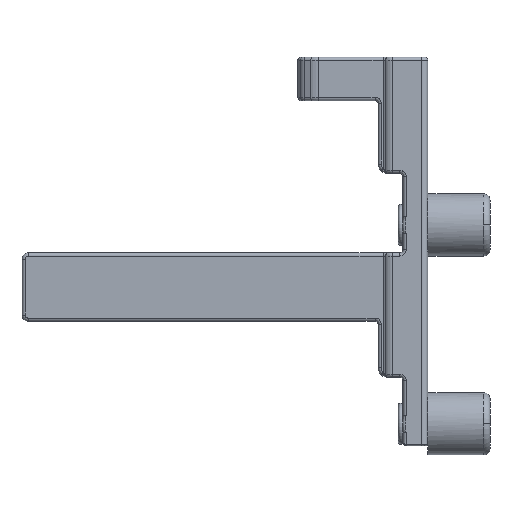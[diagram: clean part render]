
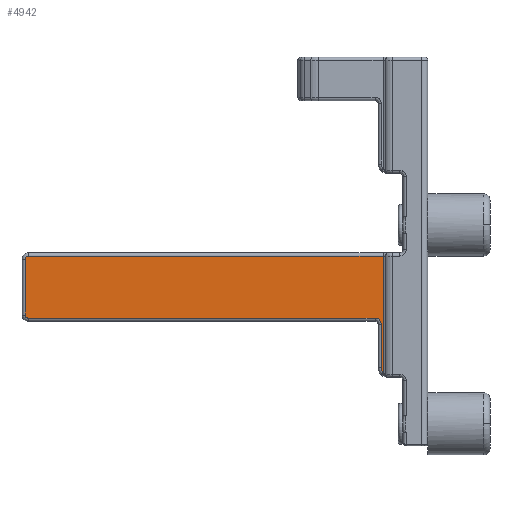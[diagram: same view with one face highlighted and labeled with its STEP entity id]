
A CAD part, left-side view. The second image highlights one B-rep face of the part: STEP entity #4942.
In plain terms, the highlighted planar face has unit normal (-1, 0, 0).
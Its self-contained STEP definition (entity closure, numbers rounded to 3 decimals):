
#243 = CARTESIAN_POINT ( 'NONE',  ( -2.55, 64.8, 21. ) ) ;
#296 = VECTOR ( 'NONE', #12019, 1000. ) ;
#460 = CARTESIAN_POINT ( 'NONE',  ( -2.55, 64.3, 30. ) ) ;
#551 = AXIS2_PLACEMENT_3D ( 'NONE', #460, #11436, #4143 ) ;
#552 = VERTEX_POINT ( 'NONE', #9717 ) ;
#782 = ORIENTED_EDGE ( 'NONE', *, *, #3782, .T. ) ;
#857 = EDGE_CURVE ( 'NONE', #3329, #2293, #2743, .T. ) ;
#933 = CARTESIAN_POINT ( 'NONE',  ( -2.55, 7.207, 11.764 ) ) ;
#956 = DIRECTION ( 'NONE',  ( 0., -1., 0. ) ) ;
#1102 = AXIS2_PLACEMENT_3D ( 'NONE', #13282, #3944, #11288 ) ;
#1116 = DIRECTION ( 'NONE',  ( -1., 0., 0. ) ) ;
#1269 = CARTESIAN_POINT ( 'NONE',  ( -2.55, 64.8, 30. ) ) ;
#1565 = ORIENTED_EDGE ( 'NONE', *, *, #12086, .T. ) ;
#1668 = VECTOR ( 'NONE', #6579, 1000. ) ;
#1890 = CIRCLE ( 'NONE', #551, 0.5 ) ;
#1948 = VERTEX_POINT ( 'NONE', #1269 ) ;
#2025 = CARTESIAN_POINT ( 'NONE',  ( -2.55, 7., 20.5 ) ) ;
#2152 = CIRCLE ( 'NONE', #5721, 0.5 ) ;
#2199 = EDGE_CURVE ( 'NONE', #10363, #1948, #1890, .T. ) ;
#2293 = VERTEX_POINT ( 'NONE', #11311 ) ;
#2338 = VERTEX_POINT ( 'NONE', #10886 ) ;
#2635 = CARTESIAN_POINT ( 'NONE',  ( -2.55, 7.207, 30.5 ) ) ;
#2696 = CARTESIAN_POINT ( 'NONE',  ( -2.55, 6.5, 12.5 ) ) ;
#2743 = CIRCLE ( 'NONE', #8977, 1. ) ;
#2769 = ORIENTED_EDGE ( 'NONE', *, *, #2199, .T. ) ;
#3081 = VERTEX_POINT ( 'NONE', #2635 ) ;
#3100 = ORIENTED_EDGE ( 'NONE', *, *, #9724, .F. ) ;
#3329 = VERTEX_POINT ( 'NONE', #13401 ) ;
#3452 = CARTESIAN_POINT ( 'NONE',  ( -2.55, 8.5, 19.5 ) ) ;
#3728 = DIRECTION ( 'NONE',  ( 0., 0., -1. ) ) ;
#3736 = DIRECTION ( 'NONE',  ( 0., 0., -1. ) ) ;
#3782 = EDGE_CURVE ( 'NONE', #552, #12031, #7669, .T. ) ;
#3944 = DIRECTION ( 'NONE',  ( 1., 0., 0. ) ) ;
#4122 = LINE ( 'NONE', #243, #1668 ) ;
#4143 = DIRECTION ( 'NONE',  ( 0., 0., -1. ) ) ;
#4942 = ADVANCED_FACE ( 'NONE', ( #9282 ), #8175, .F. ) ;
#5286 = EDGE_CURVE ( 'NONE', #1948, #6269, #4122, .T. ) ;
#5666 = DIRECTION ( 'NONE',  ( 1., 0., 0. ) ) ;
#5721 = AXIS2_PLACEMENT_3D ( 'NONE', #7475, #1116, #8516 ) ;
#5806 = CARTESIAN_POINT ( 'NONE',  ( -2.55, 7., 30.5 ) ) ;
#6269 = VERTEX_POINT ( 'NONE', #9522 ) ;
#6282 = EDGE_CURVE ( 'NONE', #6269, #2338, #2152, .T. ) ;
#6368 = ORIENTED_EDGE ( 'NONE', *, *, #6646, .T. ) ;
#6579 = DIRECTION ( 'NONE',  ( 0., 0., -1. ) ) ;
#6646 = EDGE_CURVE ( 'NONE', #2293, #552, #10075, .T. ) ;
#6910 = CARTESIAN_POINT ( 'NONE',  ( -2.55, 7.5, 62.5 ) ) ;
#6951 = LINE ( 'NONE', #933, #7287 ) ;
#7287 = VECTOR ( 'NONE', #7305, 1000. ) ;
#7296 = VECTOR ( 'NONE', #3728, 1000. ) ;
#7305 = DIRECTION ( 'NONE',  ( 0., 0., -1. ) ) ;
#7475 = CARTESIAN_POINT ( 'NONE',  ( -2.55, 64.3, 21. ) ) ;
#7532 = CARTESIAN_POINT ( 'NONE',  ( -2.55, 64.3, 30.5 ) ) ;
#7669 = CIRCLE ( 'NONE', #8812, 1. ) ;
#7727 = VECTOR ( 'NONE', #956, 1000. ) ;
#8175 = PLANE ( 'NONE',  #1102 ) ;
#8399 = LINE ( 'NONE', #5806, #296 ) ;
#8516 = DIRECTION ( 'NONE',  ( 0., 0., -1. ) ) ;
#8541 = ORIENTED_EDGE ( 'NONE', *, *, #857, .T. ) ;
#8812 = AXIS2_PLACEMENT_3D ( 'NONE', #2696, #10085, #3736 ) ;
#8977 = AXIS2_PLACEMENT_3D ( 'NONE', #3452, #5666, #10946 ) ;
#9279 = ORIENTED_EDGE ( 'NONE', *, *, #6282, .T. ) ;
#9282 = FACE_OUTER_BOUND ( 'NONE', #11428, .T. ) ;
#9522 = CARTESIAN_POINT ( 'NONE',  ( -2.55, 64.8, 21. ) ) ;
#9717 = CARTESIAN_POINT ( 'NONE',  ( -2.55, 7.5, 12.5 ) ) ;
#9724 = EDGE_CURVE ( 'NONE', #3081, #12031, #6951, .T. ) ;
#10075 = LINE ( 'NONE', #6910, #7296 ) ;
#10085 = DIRECTION ( 'NONE',  ( -1., 0., 0. ) ) ;
#10363 = VERTEX_POINT ( 'NONE', #7532 ) ;
#10662 = EDGE_CURVE ( 'NONE', #3081, #10363, #8399, .T. ) ;
#10886 = CARTESIAN_POINT ( 'NONE',  ( -2.55, 64.3, 20.5 ) ) ;
#10946 = DIRECTION ( 'NONE',  ( 0., 0., -1. ) ) ;
#11288 = DIRECTION ( 'NONE',  ( 0., 0., 1. ) ) ;
#11311 = CARTESIAN_POINT ( 'NONE',  ( -2.55, 7.5, 19.5 ) ) ;
#11428 = EDGE_LOOP ( 'NONE', ( #6368, #782, #3100, #12679, #2769, #12258, #9279, #1565, #8541 ) ) ;
#11436 = DIRECTION ( 'NONE',  ( -1., 0., 0. ) ) ;
#12019 = DIRECTION ( 'NONE',  ( 0., 1., 0. ) ) ;
#12031 = VERTEX_POINT ( 'NONE', #13452 ) ;
#12086 = EDGE_CURVE ( 'NONE', #2338, #3329, #13172, .T. ) ;
#12258 = ORIENTED_EDGE ( 'NONE', *, *, #5286, .T. ) ;
#12679 = ORIENTED_EDGE ( 'NONE', *, *, #10662, .T. ) ;
#13172 = LINE ( 'NONE', #2025, #7727 ) ;
#13282 = CARTESIAN_POINT ( 'NONE',  ( -2.55, 7., 62.5 ) ) ;
#13401 = CARTESIAN_POINT ( 'NONE',  ( -2.55, 8.5, 20.5 ) ) ;
#13452 = CARTESIAN_POINT ( 'NONE',  ( -2.55, 7.207, 11.793 ) ) ;
